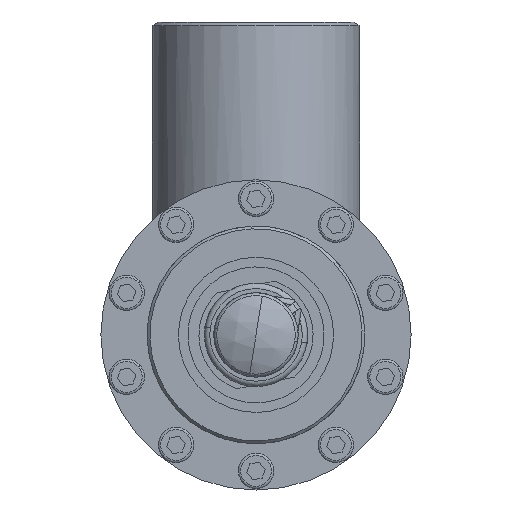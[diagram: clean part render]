
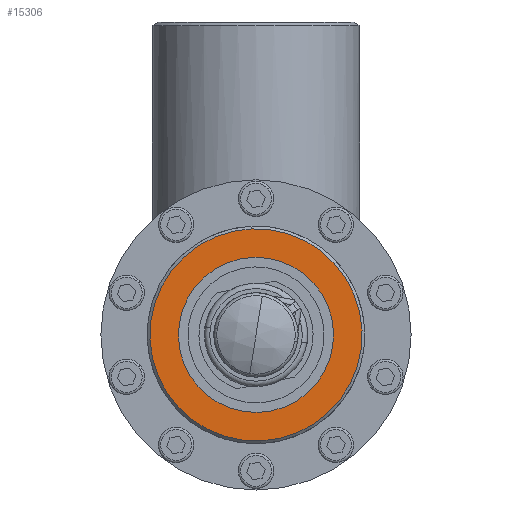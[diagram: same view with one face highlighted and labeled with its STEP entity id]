
A CAD part, front view. The second image highlights one B-rep face of the part: STEP entity #15306.
In plain terms, the highlighted planar face has unit normal (0, -1, 0) as drawn and (0, 1, 0) by its records, which use the part's own axes.
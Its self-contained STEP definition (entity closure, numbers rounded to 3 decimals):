
#223 = ORIENTED_EDGE ( 'NONE', *, *, #18874, .F. ) ;
#16801 = CIRCLE ( 'NONE', #16807, 39. ) ;
#16807 = AXIS2_PLACEMENT_3D ( 'NONE', #16808, #16809, #16810 ) ;
#16808 = CARTESIAN_POINT ( 'NONE',  ( 0., 145., 0. ) ) ;
#16809 = DIRECTION ( 'NONE',  ( 0., -1., 0. ) ) ;
#16810 = DIRECTION ( 'NONE',  ( 0., 0., -1. ) ) ;
#1227 = EDGE_LOOP ( 'NONE', ( #223, #24611 ) ) ;
#1701 = ORIENTED_EDGE ( 'NONE', *, *, #9730, .F. ) ;
#18391 = VERTEX_POINT ( 'NONE', #2670 ) ;
#18634 = VERTEX_POINT ( 'NONE', #3034 ) ;
#18874 = EDGE_CURVE ( 'NONE', #18634, #18391, #4392, .T. ) ;
#2670 = CARTESIAN_POINT ( 'NONE',  ( 0., 145., 39. ) ) ;
#2723 = EDGE_CURVE ( 'NONE', #19491, #10488, #3189, .T. ) ;
#3034 = CARTESIAN_POINT ( 'NONE',  ( 0., 145., -39. ) ) ;
#19491 = VERTEX_POINT ( 'NONE', #9842 ) ;
#3189 = CIRCLE ( 'NONE', #3190, 25.25 ) ;
#3190 = AXIS2_PLACEMENT_3D ( 'NONE', #3191, #3192, #3193 ) ;
#3191 = CARTESIAN_POINT ( 'NONE',  ( 0., 145., 0. ) ) ;
#3192 = DIRECTION ( 'NONE',  ( 0., 1., 0. ) ) ;
#3193 = DIRECTION ( 'NONE',  ( 0., 0., 1. ) ) ;
#3446 = ORIENTED_EDGE ( 'NONE', *, *, #2723, .F. ) ;
#4392 = CIRCLE ( 'NONE', #4393, 39. ) ;
#4393 = AXIS2_PLACEMENT_3D ( 'NONE', #4394, #4395, #4396 ) ;
#4394 = CARTESIAN_POINT ( 'NONE',  ( 0., 145., 0. ) ) ;
#4395 = DIRECTION ( 'NONE',  ( 0., -1., 0. ) ) ;
#4396 = DIRECTION ( 'NONE',  ( 0., 0., -1. ) ) ;
#21278 = FACE_BOUND ( 'NONE', #15048, .T. ) ;
#21279 = FACE_OUTER_BOUND ( 'NONE', #1227, .T. ) ;
#21280 = PLANE ( 'NONE',  #21281 ) ;
#21281 = AXIS2_PLACEMENT_3D ( 'NONE', #21282, #21283, #21284 ) ;
#21282 = CARTESIAN_POINT ( 'NONE',  ( 0., 145., 0. ) ) ;
#21283 = DIRECTION ( 'NONE',  ( 0., 1., 0. ) ) ;
#21284 = DIRECTION ( 'NONE',  ( 0., 0., 1. ) ) ;
#23891 = EDGE_CURVE ( 'NONE', #18391, #18634, #16801, .T. ) ;
#24611 = ORIENTED_EDGE ( 'NONE', *, *, #23891, .F. ) ;
#9730 = EDGE_CURVE ( 'NONE', #10488, #19491, #10374, .T. ) ;
#9842 = CARTESIAN_POINT ( 'NONE',  ( 0., 145., 25.25 ) ) ;
#10374 = CIRCLE ( 'NONE', #10375, 25.25 ) ;
#10375 = AXIS2_PLACEMENT_3D ( 'NONE', #10376, #10377, #10378 ) ;
#10376 = CARTESIAN_POINT ( 'NONE',  ( 0., 145., 0. ) ) ;
#10377 = DIRECTION ( 'NONE',  ( 0., 1., 0. ) ) ;
#10378 = DIRECTION ( 'NONE',  ( 0., 0., 1. ) ) ;
#10488 = VERTEX_POINT ( 'NONE', #11906 ) ;
#11906 = CARTESIAN_POINT ( 'NONE',  ( 0., 145., -25.25 ) ) ;
#15048 = EDGE_LOOP ( 'NONE', ( #3446, #1701 ) ) ;
#15306 = ADVANCED_FACE ( 'NONE', ( #21278, #21279 ), #21280, .T. ) ;
